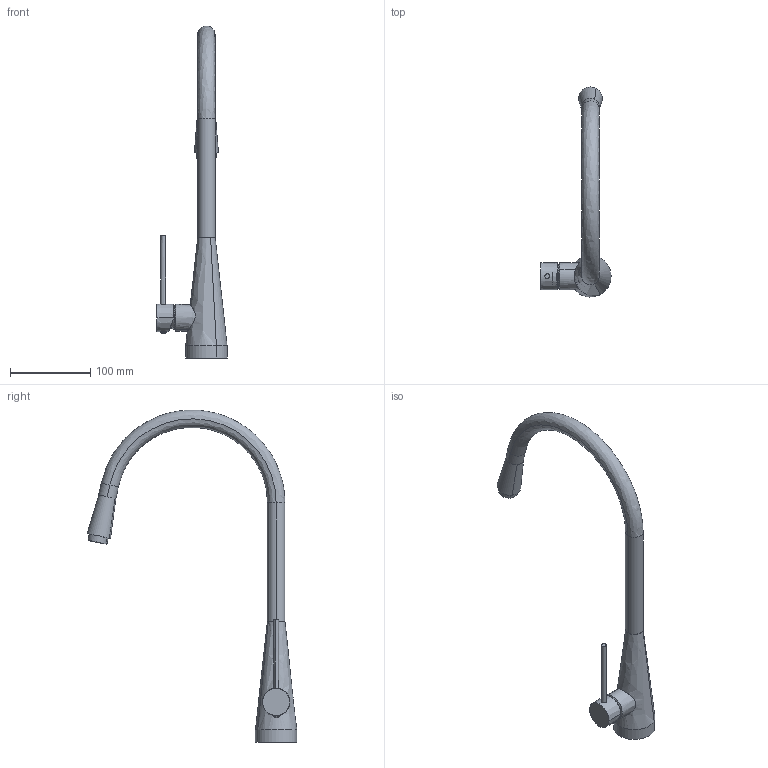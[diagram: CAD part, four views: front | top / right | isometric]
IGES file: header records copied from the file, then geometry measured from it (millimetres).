
Start section: START RECORD GO HERE.
Global section: file name: 64215.igs; native system: IBM CATIA IGES - CATIA Version 5 Release 17 ; preprocessor: CATIA Version 5 Release 17 ; author: prog02; organization: NEWFORMSPA; date: 20091202.142540; units: millimetre
Bounding box: 87.61 x 261.81 x 414.37 mm (x, y, z)
Surface area: 66646.5 mm2 (no closed solid volume)
Topology: 0 solids, 0 shells, 57 faces, 228 edges, 226 vertices
Faces by surface type: revolution 41, plane 14, extrusion 2
